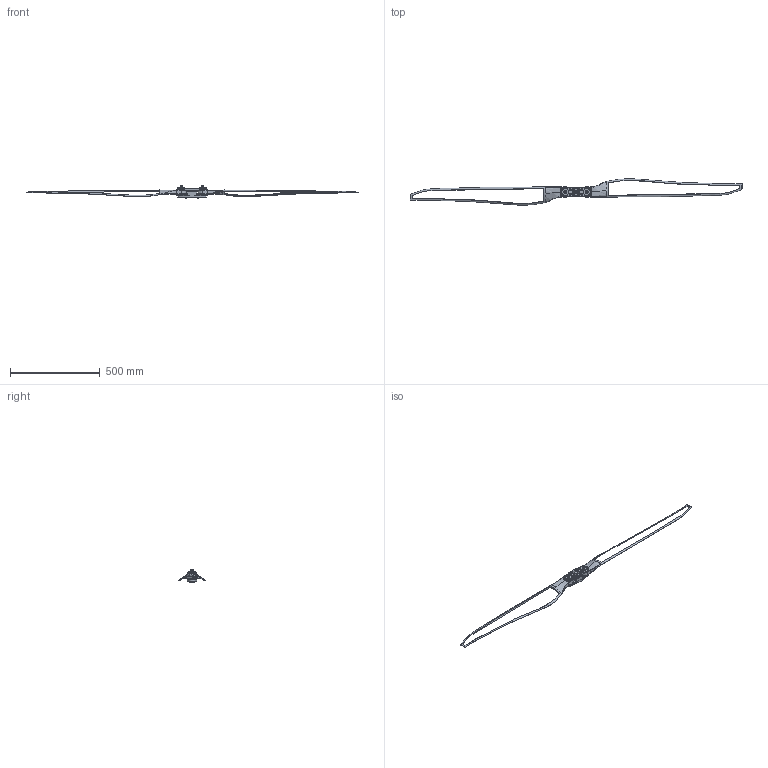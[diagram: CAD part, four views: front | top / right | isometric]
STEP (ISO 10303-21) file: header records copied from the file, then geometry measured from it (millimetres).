
FILE_DESCRIPTION (( 'STEP AP214' ), '1' );
FILE_NAME ('EFZ7324.STEP', '2026-07-20T01:31:24', ( '' ), ( '' ), 'SwSTEP 2.0', 'SolidWorks 2022', '' );
FILE_SCHEMA (( 'AUTOMOTIVE_DESIGN' ));
Length unit declared in the file: millimetre
Products named in the file (10): EF73_X2_5BF8686859394E0B677F_X0__1; EF73_X2_686853F694A28F74_X0__1; plain washers-n series-grade a gb_GB_FASTENER_WASHER_PWNA 8_1; EF73_X2_686853F68F745957_X0__1; DS73-3sc_1; EFZ7324; EF73_X2_5BF8686859394E0A677F_X0_-2_1; hexagon socket head cap screws gb_GB_FASTENER_SCREWS_HSHCS M8X20-N_1; spring lock washers--normal type gb_GB_FASTENER_WASHER_SW 8_1; EF73_X2_686853F657AB7247_X0__1
Assembly tree (17 placements, depth 2):
  EFZ7324
    EF73_X2_5BF8686859394E0B677F_X0__1
    EF73_X2_5BF8686859394E0A677F_X0_-2_1
    EF73_X2_686853F694A28F74_X0__1  x2
    EF73_X2_686853F68F745957_X0__1  x2
    EF73_X2_686853F657AB7247_X0__1  x4
    spring lock washers--normal type gb_GB_FASTENER_WASHER_SW 8_1  x2
    hexagon socket head cap screws gb_GB_FASTENER_SCREWS_HSHCS M8X20-N_1  x2
    plain washers-n series-grade a gb_GB_FASTENER_WASHER_PWNA 8_1  x2
    DS73-3sc_1
Bounding box: 1854 x 149.1 x 68.7 mm (x, y, z)
Volume: 618260.9 mm3; surface area: 224829.8 mm2
Topology: 18 solids, 18 shells, 827 faces, 2127 edges, 1346 vertices
Faces by surface type: cylinder 287, plane 262, cone 194, bspline 84
Entity records: 56376 total; most frequent: CARTESIAN_POINT 31113, ORIENTED_EDGE 3802, DIRECTION 3031, EDGE_CURVE 1901, VERTEX_POINT 1214, AXIS2_PLACEMENT_3D 1134, EDGE_LOOP 793, VECTOR 763
